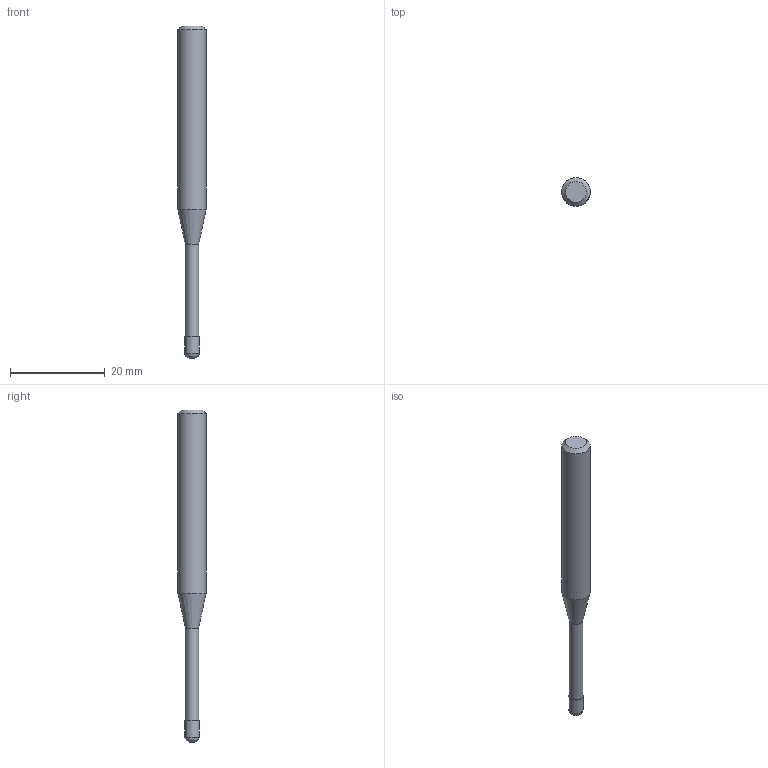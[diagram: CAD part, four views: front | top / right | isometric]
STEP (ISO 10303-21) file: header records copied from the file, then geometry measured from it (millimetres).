
FILE_DESCRIPTION((''),'2;1');
FILE_NAME('C:\Users\nsx150\AppData\Local\Temp\Mastercam 2021\17T8Q8S9EB\TEMP.step','2021-04-21T14:39:37',(''),(''),'STEP Write','Mastercam 2021 ... CNC Software, Inc.','');
FILE_SCHEMA(('AUTOMOTIVE_DESIGN'));
Length unit declared in the file: millimetre
Products named in the file (1): None
Bounding box: 6 x 6 x 70 mm (x, y, z)
Volume: 1358.9 mm3; surface area: 1084.4 mm2
Topology: 2 solids, 2 shells, 10 faces, 14 edges, 8 vertices
Faces by surface type: plane 4, cylinder 3, cone 2, torus 1
Full cylindrical faces by diameter (mm): 2.85 x1, 3 x1, 6 x1
Entity records: 232 total; most frequent: DIRECTION 40, CARTESIAN_POINT 28, AXIS2_PLACEMENT_3D 20, ORIENTED_EDGE 16, EDGE_LOOP 16, STYLED_ITEM 13, ADVANCED_FACE 10, FACE_BOUND 10
